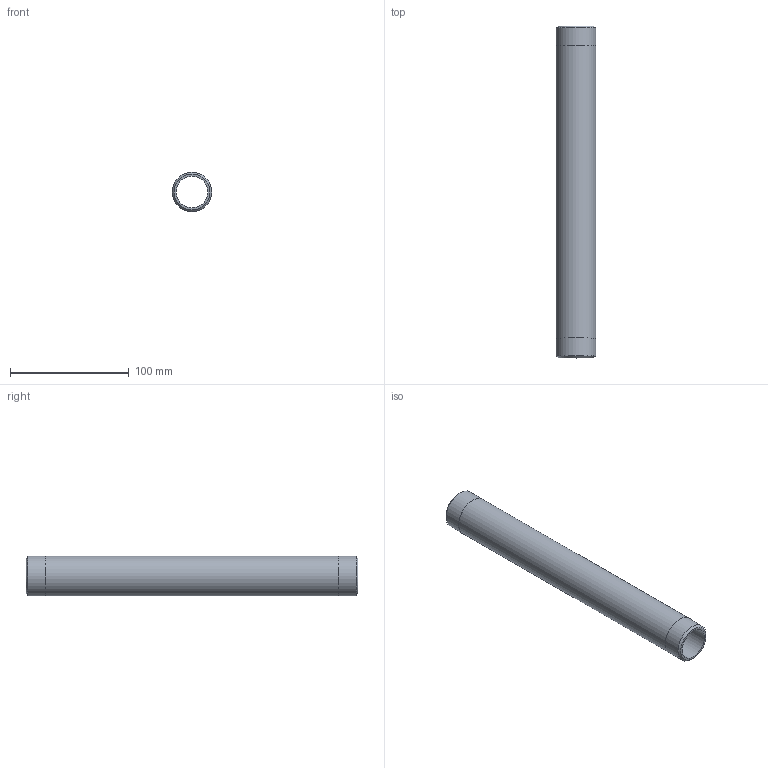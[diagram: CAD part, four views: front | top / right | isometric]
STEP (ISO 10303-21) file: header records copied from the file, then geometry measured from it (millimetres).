
FILE_DESCRIPTION(/* description */ (''),/* implementation_level */ '2;1');
FILE_NAME(/* name */ 'C:/Users/drich/Desktop/SSPN1-11 v1.step',/* time_stamp */ '2020-01-03T16:30:58-06:00',/* author */ (''),/* organization */ (''),/* preprocessor_version */ 'ST-DEVELOPER v18',/* originating_system */ 'Autodesk Translation Framework v8.12.0.6',/* authorisation */ '');
FILE_SCHEMA (('AUTOMOTIVE_DESIGN { 1 0 10303 214 3 1 1 }'));
Length unit declared in the file: inch
Products named in the file (1): SSPN1-11
Bounding box: 33.4 x 279.4 x 33.4 mm (x, y, z)
Volume: 88659.6 mm3; surface area: 53127.8 mm2
Topology: 1 solids, 1 shells, 10 faces, 24 edges, 18 vertices
Faces by surface type: cylinder 4, plane 4, cone 2
Full cylindrical faces by diameter (mm): 26.645 x1, 33.35 x2, 33.401 x1
Entity records: 353 total; most frequent: DIRECTION 64, CARTESIAN_POINT 53, ORIENTED_EDGE 48, AXIS2_PLACEMENT_3D 29, EDGE_CURVE 24, CIRCLE 18, VERTEX_POINT 18, EDGE_LOOP 14
